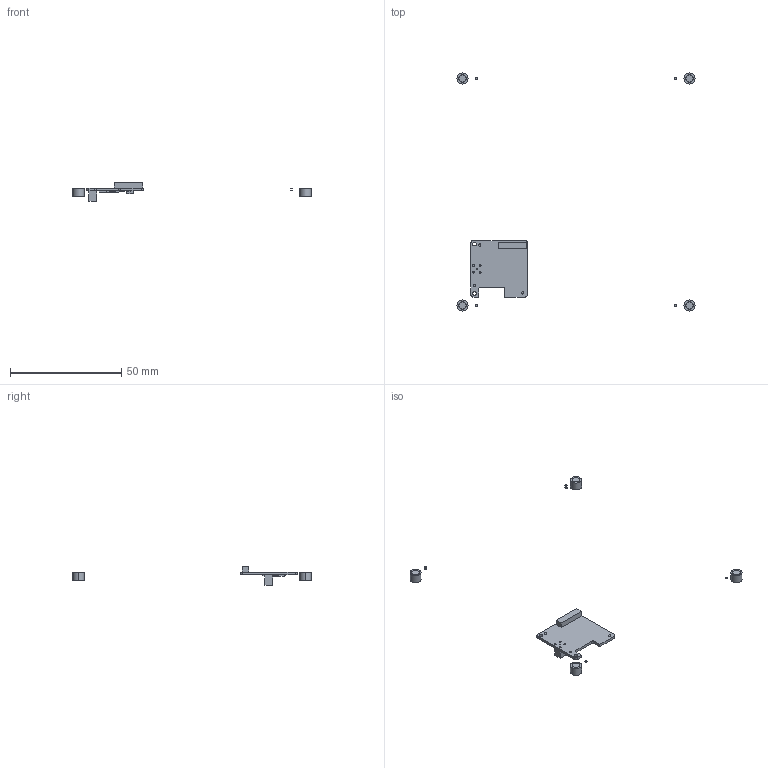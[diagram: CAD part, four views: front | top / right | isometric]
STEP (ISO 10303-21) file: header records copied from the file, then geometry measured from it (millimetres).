
FILE_DESCRIPTION(/* description */ ('PCB Design'),/* implementation_level */ '2;1');
FILE_NAME(/* name */ 'Juipter_Nano_Analog_in_R1',/* time_stamp */ '2021-12-21T15:47:41+02:00',/* author */ ('Roy K'),/* organization */ (''),/* preprocessor_version */ 'ST-DEVELOPER v16',/* originating_system */ 'allegro_17.2S033',/* authorisation */ '');
FILE_SCHEMA (('AUTOMOTIVE_DESIGN { 1 0 10303 214 3 1 1 }'));
Length unit declared in the file: millimetre
Products named in the file (15): JUIPTER_NANO_ANALOG_IN_R1; BOARD_OUTLINE; COMPONENTS; MMCX7_RA_TH; C0402; R0402; R0201; C0201_S; C0201; X32_3P2X2P5; CP_32_12; SOT23-5; MU98K130; DF40HC-50DS-0P4V; FID40
Assembly tree (56 placements, depth 3):
  JUIPTER_NANO_ANALOG_IN_R1
    BOARD_OUTLINE
    COMPONENTS
      MMCX7_RA_TH
      C0402  x5
      R0402  x3
      R0201  x13
      C0201_S  x10
      C0201  x2
      X32_3P2X2P5
      CP_32_12
      SOT23-5
      MU98K130  x4
      DF40HC-50DS-0P4V
      FID40  x12
Bounding box: 107.21 x 107.21 x 8.49 mm (x, y, z)
Surface area: 2224.3 mm2 (no closed solid volume)
Topology: 0 solids, 59 shells, 338 faces, 726 edges, 440 vertices
Faces by surface type: plane 278, cylinder 60
Entity records: 3461 total; most frequent: ORIENTED_EDGE 444, DIRECTION 350, CARTESIAN_POINT 323, AXIS2_PLACEMENT_3D 266, EDGE_CURVE 243, VECTOR 191, LINE 191, VERTEX_POINT 190
